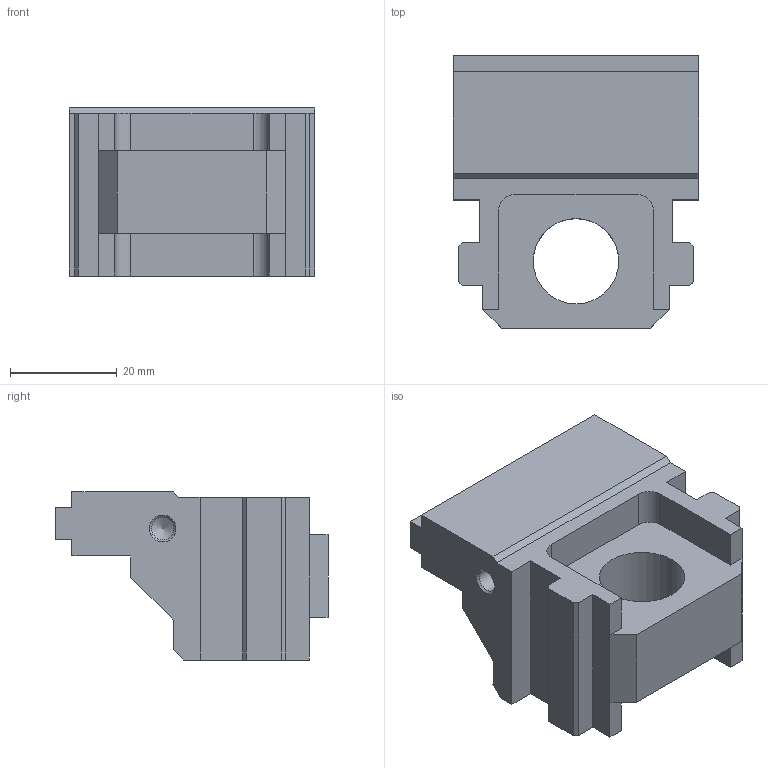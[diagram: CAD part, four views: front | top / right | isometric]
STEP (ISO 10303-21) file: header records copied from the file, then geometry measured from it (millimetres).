
FILE_DESCRIPTION (( 'STEP AP214' ), '1' );
FILE_NAME ('48085-4620.STEP', '2020-03-25T14:48:10', ( '' ), ( '' ), 'SwSTEP 2.0', 'SolidWorks 2019', '' );
FILE_SCHEMA (( 'AUTOMOTIVE_DESIGN' ));
Length unit declared in the file: millimetre
Products named in the file (1): 48085-4620
Bounding box: 46 x 51 x 31.5 mm (x, y, z)
Volume: 34395.9 mm3; surface area: 10906.2 mm2
Topology: 1 solids, 1 shells, 58 faces, 161 edges, 105 vertices
Faces by surface type: plane 47, cylinder 7, cone 4
Full cylindrical faces by diameter (mm): 4.2 x2, 16 x1
Entity records: 2439 total; most frequent: CARTESIAN_POINT 312, ORIENTED_EDGE 302, DIRECTION 285, EDGE_CURVE 151, VECTOR 135, LINE 135, VERTEX_POINT 102, AXIS2_PLACEMENT_3D 75
